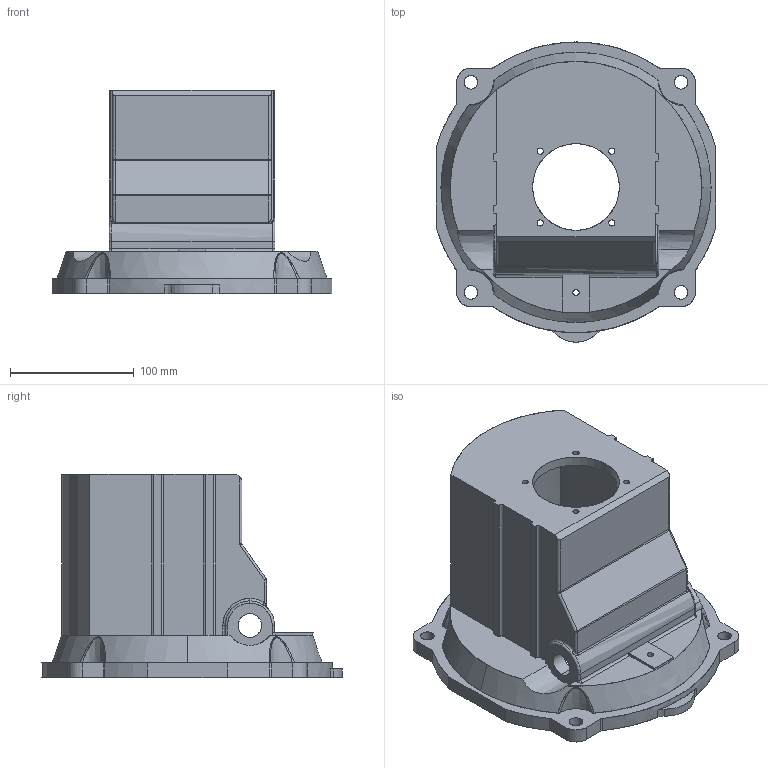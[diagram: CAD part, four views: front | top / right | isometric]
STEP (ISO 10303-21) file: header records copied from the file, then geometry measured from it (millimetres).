
FILE_DESCRIPTION(('FreeCAD Model'),'2;1');
FILE_NAME( 'C:/Users/jaekel/Documents/ArtiMinds RPS/objects/clutch housing.stp', '2017-08-21T20:33:34',('Author'),(''), 'Open CASCADE STEP processor 6.8','FreeCAD','Unknown');
FILE_SCHEMA(('AUTOMOTIVE_DESIGN_CC2 { 1 2 10303 214 -1 1 5 4 }'));
Length unit declared in the file: millimetre
Products named in the file (2): ASSEMBLY; clutch_housing
Assembly tree (1 placements, depth 2):
  ASSEMBLY
    clutch_housing
Bounding box: 226 x 242.5 x 164 mm (x, y, z)
Surface area: 250830.1 mm2 (no closed solid volume)
Topology: 0 solids, 238 shells, 238 faces, 3777 edges, 3775 vertices
Faces by surface type: revolution 137, bspline 101
Entity records: 63437 total; most frequent: CARTESIAN_POINT 26611, B_SPLINE_CURVE_WITH_KNOTS 6561, ORIENTED_EDGE 3775, EDGE_CURVE 3775, VERTEX_POINT 3775, SURFACE_CURVE 3775, PCURVE 3775, DEFINITIONAL_REPRESENTATION 3775
